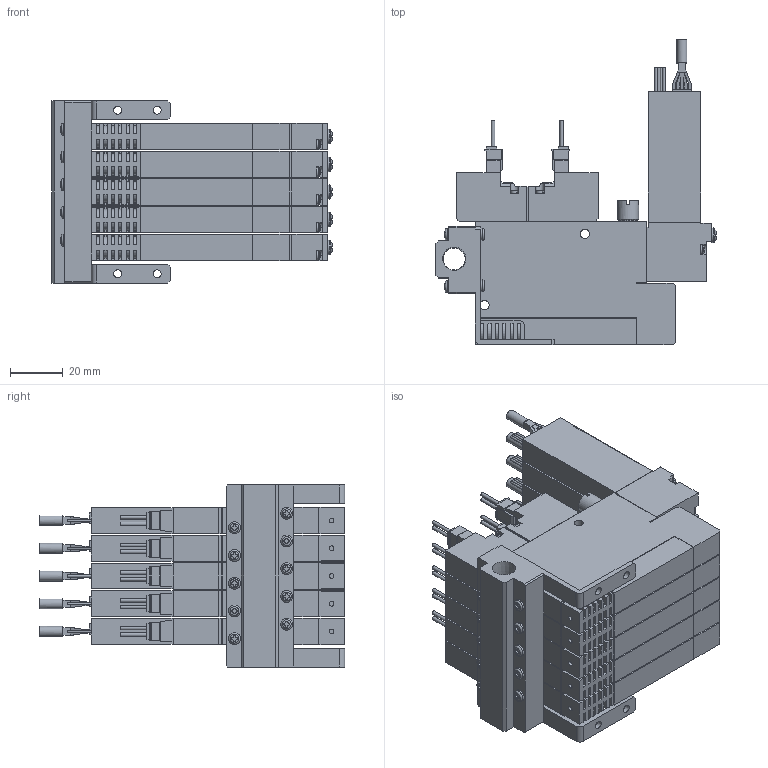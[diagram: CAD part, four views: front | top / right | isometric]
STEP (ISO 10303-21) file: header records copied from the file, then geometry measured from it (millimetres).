
FILE_DESCRIPTION(('STEP AP203'),'1');
FILE_NAME('5SS505_3D.stp','2024-09-04T22:52:44',(' '),(' '),'Spatial InterOp 3D',' ',' ');
FILE_SCHEMA(('CONFIG_CONTROL_DESIGN'));
Length unit declared in the file: millimetre
Products named in the file (5): BSC1M※※10※5SS505; Solenoid valve S; Pressure Sensor 10; Unit-S; BaseMS50R
Assembly tree (16 placements, depth 2):
  BSC1M※※10※5SS505
    Solenoid valve S  x5
    Pressure Sensor 10  x5
    Unit-S  x5
    BaseMS50R
Bounding box: 106.35 x 115.8 x 69 mm (x, y, z)
Volume: 292813.6 mm3; surface area: 116690.8 mm2
Topology: 16 solids, 16 shells, 2675 faces, 7320 edges, 4846 vertices
Faces by surface type: plane 1983, cylinder 607, sphere 29, torus 29, cone 27
Full cylindrical faces by diameter (mm): 0.9 x20, 1.4 x20, 1.8 x5, 2.5 x10, 3 x24, 3.5 x40, 3.8 x5, 4 x5, 4.134 x10, 4.5 x14, 5.5 x10, 7 x5, 7.7 x5, 8 x5, 8.422 x1
Entity records: 23430 total; most frequent: CARTESIAN_POINT 5111, DIRECTION 3662, ORIENTED_EDGE 3644, EDGE_CURVE 1822, LINE 1292, VECTOR 1292, VERTEX_POINT 1260, AXIS2_PLACEMENT_3D 1185
